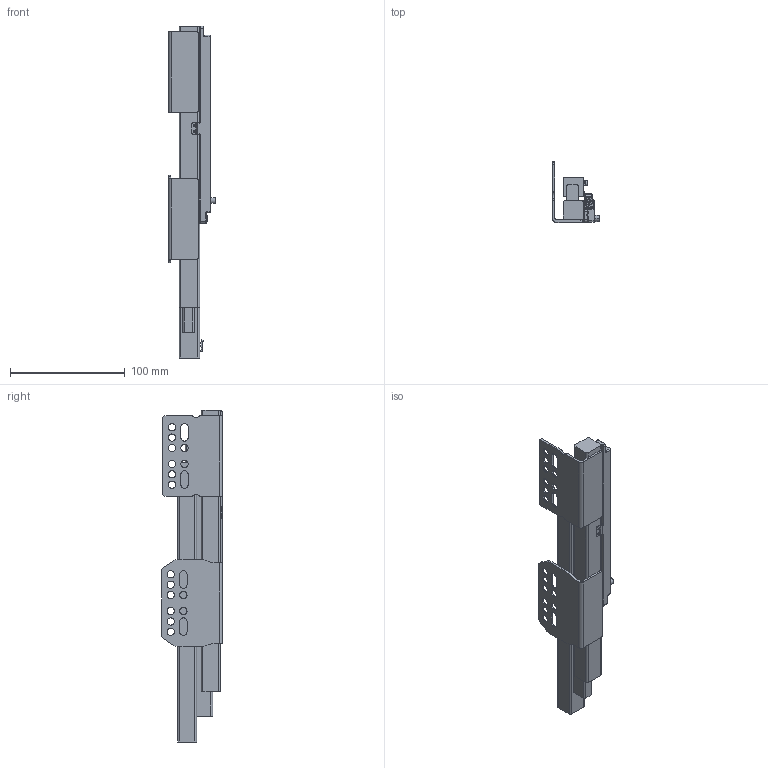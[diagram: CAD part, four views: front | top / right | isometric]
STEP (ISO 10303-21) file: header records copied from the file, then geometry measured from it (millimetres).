
FILE_DESCRIPTION (( 'STEP AP203' ), '1' );
FILE_NAME ('HB013004GX-L(闭合).STEP', '2025-05-13T07:56:06', ( '微软用户' ), ( '微软中国' ), 'SwSTEP 2.0', 'SolidWorks 2021', '' );
FILE_SCHEMA (( 'CONFIG_CONTROL_DESIGN' ));
Products named in the file (1): HB013004GX-L(敕磁)
Bounding box: 40.83 x 53 x 288.9 mm (x, y, z)
Volume: 199945.6 mm3; surface area: 60060.8 mm2
Topology: 3 solids, 30 shells, 1464 faces, 3864 edges, 2443 vertices
Faces by surface type: plane 497, cylinder 489, bspline 268, torus 158, cone 44, sphere 8
Entity records: 82703 total; most frequent: CARTESIAN_POINT 48532, ORIENTED_EDGE 7664, DIRECTION 6447, EDGE_CURVE 3832, VERTEX_POINT 2443, AXIS2_PLACEMENT_3D 2324, VECTOR 1799, LINE 1799
